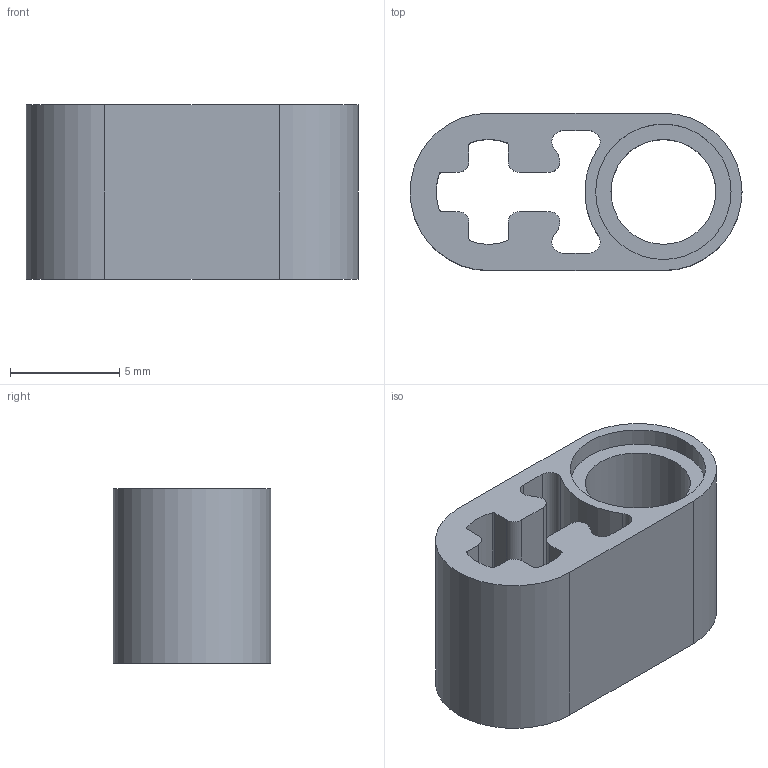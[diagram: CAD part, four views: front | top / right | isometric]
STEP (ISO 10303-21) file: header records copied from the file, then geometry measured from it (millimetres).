
FILE_DESCRIPTION(/* description */ ('Unknown'),/* implementation_level */ '2;1');
FILE_NAME(/* name */ 'Black_6006140_AVV',/* time_stamp */ '2025-07-21T23:48:55+02:00',/* author */ ('Unknown'),/* organization */ ('Unknown'),/* preprocessor_version */ 'ST-DEVELOPER v19.4',/* originating_system */ 'Solid Edge',/* authorisation */ 'Unknown');
FILE_SCHEMA (('AUTOMOTIVE_DESIGN {1 0 10303 214 3 1 1}'));
Length unit declared in the file: millimetre
Products named in the file (1): Black_6006140_AVV
Bounding box: 15.2 x 7.2 x 8 mm (x, y, z)
Volume: 427.7 mm3; surface area: 790.4 mm2
Topology: 1 solids, 1 shells, 43 faces, 117 edges, 78 vertices
Faces by surface type: cylinder 27, plane 16
Full cylindrical faces by diameter (mm): 4.8 x1, 6.2 x2
Entity records: 1408 total; most frequent: DIRECTION 256, CARTESIAN_POINT 236, ORIENTED_EDGE 228, EDGE_CURVE 114, AXIS2_PLACEMENT_3D 98, VERTEX_POINT 78, LINE 60, VECTOR 60
